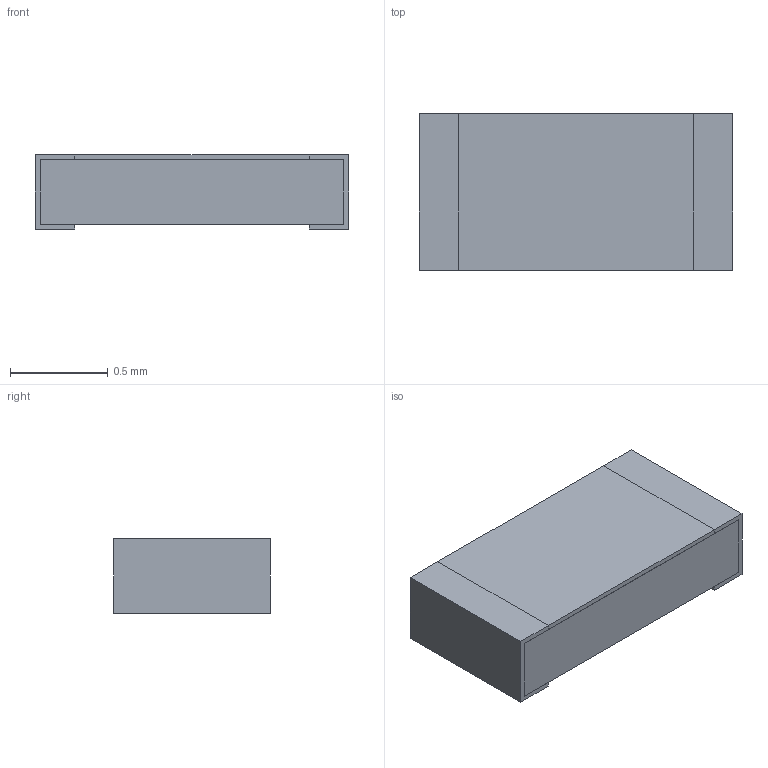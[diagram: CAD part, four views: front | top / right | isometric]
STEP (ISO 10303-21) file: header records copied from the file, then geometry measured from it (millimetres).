
FILE_DESCRIPTION(('STEP AP203'), '1');
FILE_NAME('栖闉罻', '', ('UNSPECIFIED'), ('UNSPECIFIED'), 'ASCON STEP Converter 1.6', 'ASCON Math Kernel', '');
FILE_SCHEMA(('CONFIG_CONTROL_DESIGN'));
Length unit declared in the file: millimetre
Assembly tree (1 placements, depth 2):
  (unnamed)
    (unnamed)
Bounding box: 1.6 x 0.8 x 0.38 mm (x, y, z)
Volume: 0.5 mm3; surface area: 8.7 mm2
Topology: 4 solids, 5 shells, 51 faces, 123 edges, 82 vertices
Faces by surface type: plane 47, cylinder 4
Entity records: 1987 total; most frequent: CARTESIAN_POINT 258, ORIENTED_EDGE 246, DIRECTION 237, EDGE_CURVE 123, LINE 115, VECTOR 115, VERTEX_POINT 82, AXIS2_PLACEMENT_3D 61
